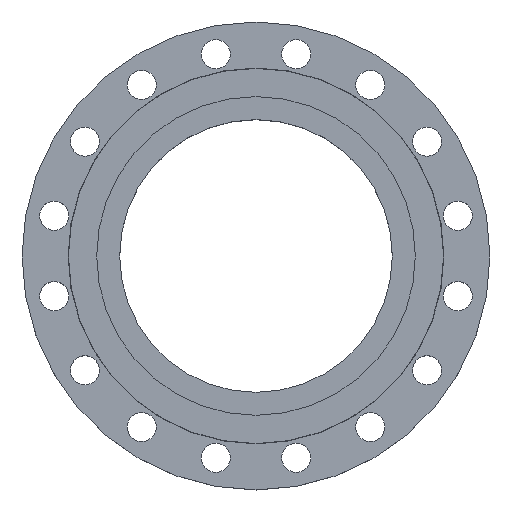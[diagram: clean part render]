
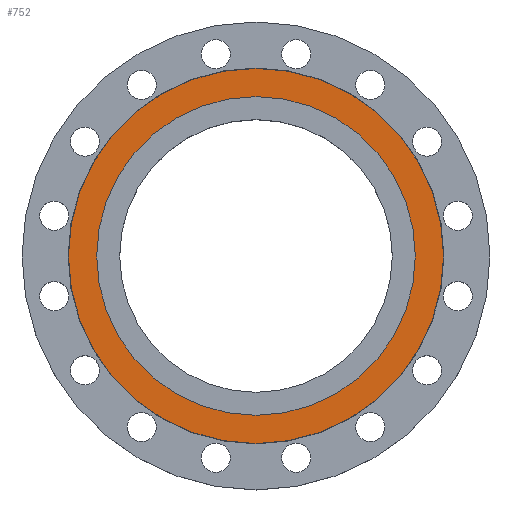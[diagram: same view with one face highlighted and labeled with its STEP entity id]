
A CAD part, top view. The second image highlights one B-rep face of the part: STEP entity #752.
In plain terms, the highlighted planar face has unit normal (0, 0, 1).
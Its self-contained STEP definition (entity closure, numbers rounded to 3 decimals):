
#45 = CARTESIAN_POINT ( 'NONE',  ( 232.5, 0., 0. ) ) ;
#48 = CARTESIAN_POINT ( 'NONE',  ( -232.5, 0., 0. ) ) ;
#172 = VERTEX_POINT ( 'NONE', #1318 ) ;
#242 = CIRCLE ( 'NONE', #950, 232.5 ) ;
#296 = EDGE_CURVE ( 'NONE', #1773, #1775, #242, .T. ) ;
#339 = EDGE_CURVE ( 'NONE', #1775, #1773, #980, .T. ) ;
#489 = CARTESIAN_POINT ( 'NONE',  ( 0., 0., 0. ) ) ;
#494 = VERTEX_POINT ( 'NONE', #999 ) ;
#495 = DIRECTION ( 'NONE',  ( 0., 0., -1. ) ) ;
#496 = DIRECTION ( 'NONE',  ( -1., 0., 0. ) ) ;
#521 = DIRECTION ( 'NONE',  ( -1., 0., 0. ) ) ;
#524 = DIRECTION ( 'NONE',  ( 0., 0., -1. ) ) ;
#529 = CARTESIAN_POINT ( 'NONE',  ( 0., 0., 0. ) ) ;
#752 = ADVANCED_FACE ( 'NONE', ( #885, #884 ), #881, .T. ) ;
#876 = DIRECTION ( 'NONE',  ( 1., 0., 0. ) ) ;
#877 = DIRECTION ( 'NONE',  ( 0., 0., 1. ) ) ;
#880 = CARTESIAN_POINT ( 'NONE',  ( 0., 0., 0. ) ) ;
#881 = PLANE ( 'NONE',  #1275 ) ;
#884 = FACE_BOUND ( 'NONE', #1675, .T. ) ;
#885 = FACE_OUTER_BOUND ( 'NONE', #1572, .T. ) ;
#950 = AXIS2_PLACEMENT_3D ( 'NONE', #1187, #1186, #1185 ) ;
#980 = CIRCLE ( 'NONE', #982, 232.5 ) ;
#982 = AXIS2_PLACEMENT_3D ( 'NONE', #1110, #1084, #1083 ) ;
#999 = CARTESIAN_POINT ( 'NONE',  ( 197.5, 0., 0. ) ) ;
#1083 = DIRECTION ( 'NONE',  ( -1., 0., 0. ) ) ;
#1084 = DIRECTION ( 'NONE',  ( 0., 0., -1. ) ) ;
#1110 = CARTESIAN_POINT ( 'NONE',  ( 0., 0., 0. ) ) ;
#1180 = CIRCLE ( 'NONE', #1181, 197.5 ) ;
#1181 = AXIS2_PLACEMENT_3D ( 'NONE', #529, #524, #521 ) ;
#1185 = DIRECTION ( 'NONE',  ( -1., 0., 0. ) ) ;
#1186 = DIRECTION ( 'NONE',  ( 0., 0., -1. ) ) ;
#1187 = CARTESIAN_POINT ( 'NONE',  ( 0., 0., 0. ) ) ;
#1218 = CIRCLE ( 'NONE', #1234, 197.5 ) ;
#1234 = AXIS2_PLACEMENT_3D ( 'NONE', #489, #495, #496 ) ;
#1275 = AXIS2_PLACEMENT_3D ( 'NONE', #880, #877, #876 ) ;
#1318 = CARTESIAN_POINT ( 'NONE',  ( -197.5, 0., 0. ) ) ;
#1398 = EDGE_CURVE ( 'NONE', #494, #172, #1180, .T. ) ;
#1447 = EDGE_CURVE ( 'NONE', #172, #494, #1218, .T. ) ;
#1572 = EDGE_LOOP ( 'NONE', ( #1659, #1670 ) ) ;
#1659 = ORIENTED_EDGE ( 'NONE', *, *, #296, .F. ) ;
#1660 = ORIENTED_EDGE ( 'NONE', *, *, #1398, .T. ) ;
#1670 = ORIENTED_EDGE ( 'NONE', *, *, #339, .F. ) ;
#1675 = EDGE_LOOP ( 'NONE', ( #1708, #1660 ) ) ;
#1708 = ORIENTED_EDGE ( 'NONE', *, *, #1447, .T. ) ;
#1773 = VERTEX_POINT ( 'NONE', #48 ) ;
#1775 = VERTEX_POINT ( 'NONE', #45 ) ;
